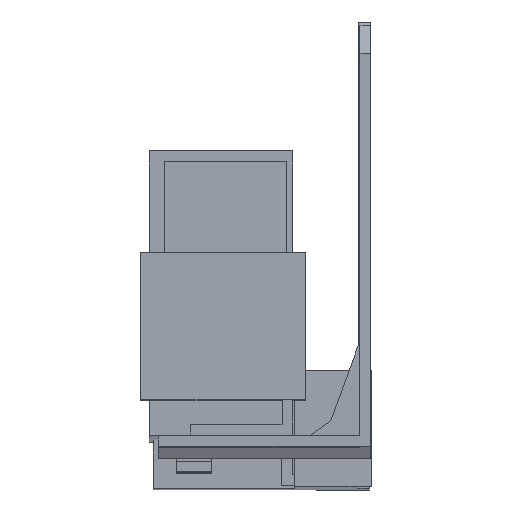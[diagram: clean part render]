
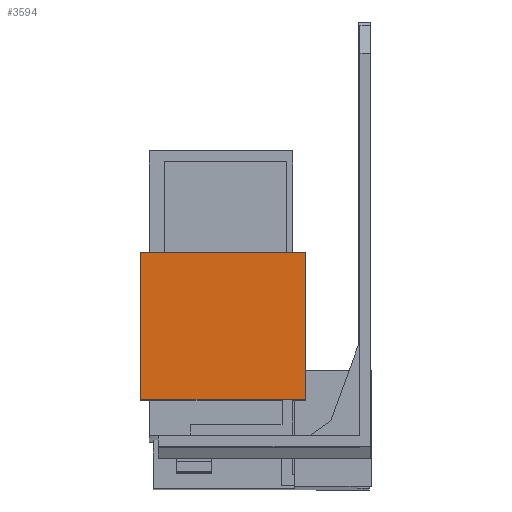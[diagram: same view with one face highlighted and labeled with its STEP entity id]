
A CAD part, front view. The second image highlights one B-rep face of the part: STEP entity #3594.
In plain terms, the highlighted planar face has unit normal (0, -1, 0.003).
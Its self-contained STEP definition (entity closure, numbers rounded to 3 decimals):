
#699 = PLANE ( 'NONE',  #2927 ) ;
#702 = CARTESIAN_POINT ( 'NONE',  ( -9.3, -29.009, -40.322 ) ) ;
#708 = DIRECTION ( 'NONE',  ( 0., -1., 0.003 ) ) ;
#709 = DIRECTION ( 'NONE',  ( 1., 0., 0. ) ) ;
#834 = CARTESIAN_POINT ( 'NONE',  ( -32.7, -29.009, -40.322 ) ) ;
#835 = DIRECTION ( 'NONE',  ( 0., 0.003, 1. ) ) ;
#855 = CARTESIAN_POINT ( 'NONE',  ( -9.3, -29.009, -40.322 ) ) ;
#856 = DIRECTION ( 'NONE',  ( 0., 0.003, 1. ) ) ;
#889 = CARTESIAN_POINT ( 'NONE',  ( -9.3, -29.009, -40.322 ) ) ;
#897 = DIRECTION ( 'NONE',  ( -1., 0., 0. ) ) ;
#898 = CARTESIAN_POINT ( 'NONE',  ( -9.3, -28.952, -19.322 ) ) ;
#899 = DIRECTION ( 'NONE',  ( -1., 0., 0. ) ) ;
#954 = VERTEX_POINT ( 'NONE', #4773 ) ;
#956 = VERTEX_POINT ( 'NONE', #4775 ) ;
#1014 = VERTEX_POINT ( 'NONE', #3319 ) ;
#1045 = VERTEX_POINT ( 'NONE', #4757 ) ;
#2035 = EDGE_LOOP ( 'NONE', ( #3889, #3872, #3870, #3864 ) ) ;
#2927 = AXIS2_PLACEMENT_3D ( 'NONE', #702, #708, #709 ) ;
#3319 = CARTESIAN_POINT ( 'NONE',  ( -32.7, -29.009, -40.322 ) ) ;
#3594 = ADVANCED_FACE ( 'NONE', ( #4712 ), #699, .T. ) ;
#3864 = ORIENTED_EDGE ( 'NONE', *, *, #4854, .T. ) ;
#3870 = ORIENTED_EDGE ( 'NONE', *, *, #4874, .F. ) ;
#3872 = ORIENTED_EDGE ( 'NONE', *, *, #4844, .F. ) ;
#3889 = ORIENTED_EDGE ( 'NONE', *, *, #4875, .T. ) ;
#4663 = LINE ( 'NONE', #889, #4717 ) ;
#4685 = LINE ( 'NONE', #834, #4688 ) ;
#4688 = VECTOR ( 'NONE', #835, 1000. ) ;
#4697 = VECTOR ( 'NONE', #856, 1000. ) ;
#4698 = LINE ( 'NONE', #855, #4697 ) ;
#4712 = FACE_OUTER_BOUND ( 'NONE', #2035, .T. ) ;
#4717 = VECTOR ( 'NONE', #897, 1000. ) ;
#4723 = VECTOR ( 'NONE', #899, 1000. ) ;
#4729 = LINE ( 'NONE', #898, #4723 ) ;
#4757 = CARTESIAN_POINT ( 'NONE',  ( -9.3, -28.952, -19.322 ) ) ;
#4773 = CARTESIAN_POINT ( 'NONE',  ( -9.3, -29.009, -40.322 ) ) ;
#4775 = CARTESIAN_POINT ( 'NONE',  ( -32.7, -28.952, -19.322 ) ) ;
#4844 = EDGE_CURVE ( 'NONE', #1014, #956, #4685, .T. ) ;
#4854 = EDGE_CURVE ( 'NONE', #954, #1045, #4698, .T. ) ;
#4874 = EDGE_CURVE ( 'NONE', #954, #1014, #4663, .T. ) ;
#4875 = EDGE_CURVE ( 'NONE', #1045, #956, #4729, .T. ) ;
